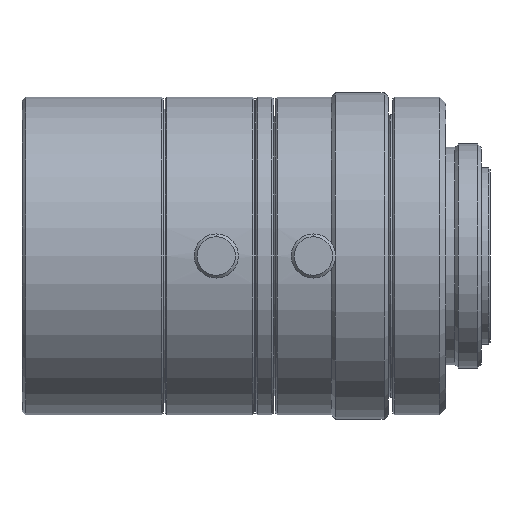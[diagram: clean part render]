
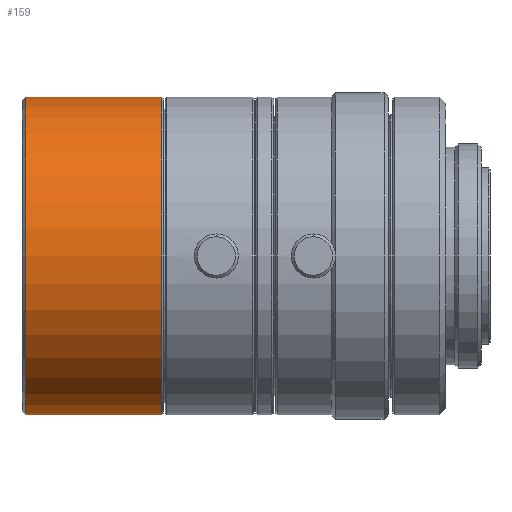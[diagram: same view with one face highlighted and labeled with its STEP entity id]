
A CAD part, front view. The second image highlights one B-rep face of the part: STEP entity #159.
In plain terms, the highlighted cylindrical face has radius 18 mm (diameter 36 mm), a partial arc.
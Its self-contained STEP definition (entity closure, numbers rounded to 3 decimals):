
#159 = ADVANCED_FACE ( 'NONE', ( #381 ), #288, .T. ) ;
#242 = CARTESIAN_POINT ( 'NONE',  ( 0.415, 0., 0. ) ) ;
#245 = CARTESIAN_POINT ( 'NONE',  ( 0.415, 0., 18. ) ) ;
#288 = CYLINDRICAL_SURFACE ( 'NONE', #1436, 18. ) ;
#340 = CARTESIAN_POINT ( 'NONE',  ( 0.415, 0., -18. ) ) ;
#381 = FACE_OUTER_BOUND ( 'NONE', #2132, .T. ) ;
#516 = DIRECTION ( 'NONE',  ( 0., 0., 1. ) ) ;
#521 = CARTESIAN_POINT ( 'NONE',  ( 15.815, 0., -18. ) ) ;
#543 = DIRECTION ( 'NONE',  ( -1., 0., 0. ) ) ;
#595 = CARTESIAN_POINT ( 'NONE',  ( 0., 0., -18. ) ) ;
#601 = DIRECTION ( 'NONE',  ( -1., 0., 0. ) ) ;
#624 = ORIENTED_EDGE ( 'NONE', *, *, #2138, .F. ) ;
#828 = EDGE_CURVE ( 'NONE', #2375, #1440, #2644, .T. ) ;
#913 = VERTEX_POINT ( 'NONE', #340 ) ;
#1033 = EDGE_CURVE ( 'NONE', #1440, #3613, #2038, .T. ) ;
#1061 = CIRCLE ( 'NONE', #2069, 18. ) ;
#1239 = CARTESIAN_POINT ( 'NONE',  ( 0., 0., 18. ) ) ;
#1269 = ORIENTED_EDGE ( 'NONE', *, *, #1033, .T. ) ;
#1436 = AXIS2_PLACEMENT_3D ( 'NONE', #3328, #543, #3040 ) ;
#1440 = VERTEX_POINT ( 'NONE', #1967 ) ;
#1475 = LINE ( 'NONE', #595, #2937 ) ;
#1670 = ORIENTED_EDGE ( 'NONE', *, *, #3244, .F. ) ;
#1852 = VECTOR ( 'NONE', #2060, 1000. ) ;
#1967 = CARTESIAN_POINT ( 'NONE',  ( 15.815, 0., 18. ) ) ;
#2038 = LINE ( 'NONE', #1239, #1852 ) ;
#2060 = DIRECTION ( 'NONE',  ( -1., 0., 0. ) ) ;
#2069 = AXIS2_PLACEMENT_3D ( 'NONE', #242, #2198, #516 ) ;
#2132 = EDGE_LOOP ( 'NONE', ( #624, #2924, #1269, #1670 ) ) ;
#2138 = EDGE_CURVE ( 'NONE', #2375, #913, #1475, .T. ) ;
#2198 = DIRECTION ( 'NONE',  ( -1., 0., 0. ) ) ;
#2276 = CARTESIAN_POINT ( 'NONE',  ( 15.815, 0., 0. ) ) ;
#2375 = VERTEX_POINT ( 'NONE', #521 ) ;
#2554 = DIRECTION ( 'NONE',  ( 0., 0., 1. ) ) ;
#2644 = CIRCLE ( 'NONE', #3549, 18. ) ;
#2821 = DIRECTION ( 'NONE',  ( -1., 0., 0. ) ) ;
#2924 = ORIENTED_EDGE ( 'NONE', *, *, #828, .T. ) ;
#2937 = VECTOR ( 'NONE', #2821, 1000. ) ;
#3040 = DIRECTION ( 'NONE',  ( 0., 0., 1. ) ) ;
#3244 = EDGE_CURVE ( 'NONE', #913, #3613, #1061, .T. ) ;
#3328 = CARTESIAN_POINT ( 'NONE',  ( 0., 0., 0. ) ) ;
#3549 = AXIS2_PLACEMENT_3D ( 'NONE', #2276, #601, #2554 ) ;
#3613 = VERTEX_POINT ( 'NONE', #245 ) ;
